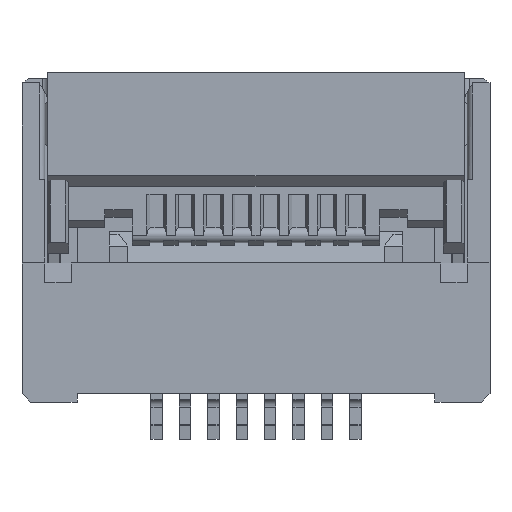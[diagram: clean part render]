
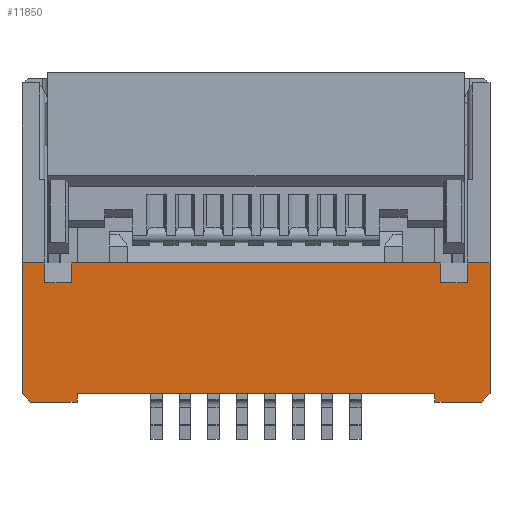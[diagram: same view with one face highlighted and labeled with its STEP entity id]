
A CAD part, top view. The second image highlights one B-rep face of the part: STEP entity #11850.
In plain terms, the highlighted planar face has unit normal (0, 0, 1).
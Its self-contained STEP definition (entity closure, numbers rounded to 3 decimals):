
#11806=AXIS2_PLACEMENT_3D('Plane Axis2P3D',#11803,#11804,#11805) ;
#638=CARTESIAN_POINT('Vertex',(1.86,2.3,1.97)) ;
#641=CARTESIAN_POINT('Line Origine',(1.86,1.15,1.97)) ;
#645=CARTESIAN_POINT('Vertex',(1.86,0.,1.97)) ;
#1993=CARTESIAN_POINT('Vertex',(0.99,1.95,1.97)) ;
#1996=CARTESIAN_POINT('Line Origine',(1.225,1.95,1.97)) ;
#2000=CARTESIAN_POINT('Vertex',(1.46,1.95,1.97)) ;
#2048=CARTESIAN_POINT('Line Origine',(1.46,2.125,1.97)) ;
#2052=CARTESIAN_POINT('Vertex',(1.46,2.3,1.97)) ;
#2106=CARTESIAN_POINT('Line Origine',(1.66,2.3,1.97)) ;
#2128=CARTESIAN_POINT('Line Origine',(1.785,-0.075,1.97)) ;
#2132=CARTESIAN_POINT('Vertex',(1.71,-0.15,1.97)) ;
#2152=CARTESIAN_POINT('Line Origine',(1.56,-0.15,1.97)) ;
#2156=CARTESIAN_POINT('Vertex',(1.41,-0.15,1.97)) ;
#2159=CARTESIAN_POINT('Line Origine',(1.15,-0.15,1.97)) ;
#2163=CARTESIAN_POINT('Vertex',(0.89,-0.15,1.97)) ;
#6178=CARTESIAN_POINT('Vertex',(-6.38,0.,1.97)) ;
#6183=CARTESIAN_POINT('Line Origine',(-6.38,1.15,1.97)) ;
#6187=CARTESIAN_POINT('Vertex',(-6.38,2.3,1.97)) ;
#7650=CARTESIAN_POINT('Vertex',(-5.98,2.3,1.97)) ;
#7653=CARTESIAN_POINT('Line Origine',(-6.18,2.3,1.97)) ;
#7674=CARTESIAN_POINT('Vertex',(-6.23,-0.15,1.97)) ;
#7677=CARTESIAN_POINT('Line Origine',(-6.305,-0.075,1.97)) ;
#7693=CARTESIAN_POINT('Vertex',(-5.41,-0.15,1.97)) ;
#7696=CARTESIAN_POINT('Line Origine',(-5.67,-0.15,1.97)) ;
#7700=CARTESIAN_POINT('Vertex',(-5.93,-0.15,1.97)) ;
#7703=CARTESIAN_POINT('Line Origine',(-6.08,-0.15,1.97)) ;
#7743=CARTESIAN_POINT('Line Origine',(-5.98,2.125,1.97)) ;
#7747=CARTESIAN_POINT('Vertex',(-5.98,1.95,1.97)) ;
#7796=CARTESIAN_POINT('Line Origine',(-5.745,1.95,1.97)) ;
#7800=CARTESIAN_POINT('Vertex',(-5.51,1.95,1.97)) ;
#10866=CARTESIAN_POINT('Vertex',(0.89,0.,1.97)) ;
#10869=CARTESIAN_POINT('Line Origine',(-2.26,0.,1.97)) ;
#10873=CARTESIAN_POINT('Vertex',(-5.41,0.,1.97)) ;
#11683=CARTESIAN_POINT('Line Origine',(-2.26,2.3,1.97)) ;
#11687=CARTESIAN_POINT('Vertex',(-5.51,2.3,1.97)) ;
#11689=CARTESIAN_POINT('Vertex',(0.99,2.3,1.97)) ;
#11803=CARTESIAN_POINT('Axis2P3D Location',(0.,2.3,1.97)) ;
#11808=CARTESIAN_POINT('Line Origine',(0.89,-0.075,1.97)) ;
#11813=CARTESIAN_POINT('Line Origine',(0.99,2.125,1.97)) ;
#11818=CARTESIAN_POINT('Line Origine',(-5.51,2.125,1.97)) ;
#11823=CARTESIAN_POINT('Line Origine',(-5.41,-0.075,1.97)) ;
#642=DIRECTION('Vector Direction',(0.,1.,0.)) ;
#1997=DIRECTION('Vector Direction',(-1.,0.,0.)) ;
#2049=DIRECTION('Vector Direction',(0.,-1.,0.)) ;
#2107=DIRECTION('Vector Direction',(1.,0.,0.)) ;
#2129=DIRECTION('Vector Direction',(0.707,0.707,0.)) ;
#2153=DIRECTION('Vector Direction',(1.,0.,0.)) ;
#2160=DIRECTION('Vector Direction',(1.,0.,0.)) ;
#6184=DIRECTION('Vector Direction',(0.,1.,0.)) ;
#7654=DIRECTION('Vector Direction',(1.,0.,0.)) ;
#7678=DIRECTION('Vector Direction',(-0.707,0.707,0.)) ;
#7697=DIRECTION('Vector Direction',(1.,0.,0.)) ;
#7704=DIRECTION('Vector Direction',(1.,0.,0.)) ;
#7744=DIRECTION('Vector Direction',(0.,-1.,0.)) ;
#7797=DIRECTION('Vector Direction',(-1.,0.,0.)) ;
#10870=DIRECTION('Vector Direction',(-1.,0.,0.)) ;
#11684=DIRECTION('Vector Direction',(1.,0.,0.)) ;
#11804=DIRECTION('Axis2P3D Direction',(-0.,0.,-1.)) ;
#11805=DIRECTION('Axis2P3D XDirection',(0.,-1.,0.)) ;
#11809=DIRECTION('Vector Direction',(0.,-1.,0.)) ;
#11814=DIRECTION('Vector Direction',(0.,-1.,0.)) ;
#11819=DIRECTION('Vector Direction',(0.,-1.,0.)) ;
#11824=DIRECTION('Vector Direction',(0.,-1.,0.)) ;
#643=VECTOR('Line Direction',#642,1.) ;
#1998=VECTOR('Line Direction',#1997,1.) ;
#2050=VECTOR('Line Direction',#2049,1.) ;
#2108=VECTOR('Line Direction',#2107,1.) ;
#2130=VECTOR('Line Direction',#2129,1.) ;
#2154=VECTOR('Line Direction',#2153,1.) ;
#2161=VECTOR('Line Direction',#2160,1.) ;
#6185=VECTOR('Line Direction',#6184,1.) ;
#7655=VECTOR('Line Direction',#7654,1.) ;
#7679=VECTOR('Line Direction',#7678,1.) ;
#7698=VECTOR('Line Direction',#7697,1.) ;
#7705=VECTOR('Line Direction',#7704,1.) ;
#7745=VECTOR('Line Direction',#7744,1.) ;
#7798=VECTOR('Line Direction',#7797,1.) ;
#10871=VECTOR('Line Direction',#10870,1.) ;
#11685=VECTOR('Line Direction',#11684,1.) ;
#11810=VECTOR('Line Direction',#11809,1.) ;
#11815=VECTOR('Line Direction',#11814,1.) ;
#11820=VECTOR('Line Direction',#11819,1.) ;
#11825=VECTOR('Line Direction',#11824,1.) ;
#11829=ORIENTED_EDGE('',*,*,#10875,.F.) ;
#11830=ORIENTED_EDGE('',*,*,#11812,.F.) ;
#11831=ORIENTED_EDGE('',*,*,#2165,.T.) ;
#11832=ORIENTED_EDGE('',*,*,#2158,.T.) ;
#11833=ORIENTED_EDGE('',*,*,#2134,.F.) ;
#11834=ORIENTED_EDGE('',*,*,#647,.F.) ;
#11835=ORIENTED_EDGE('',*,*,#2110,.F.) ;
#11836=ORIENTED_EDGE('',*,*,#2054,.F.) ;
#11837=ORIENTED_EDGE('',*,*,#2002,.T.) ;
#11838=ORIENTED_EDGE('',*,*,#11817,.T.) ;
#11839=ORIENTED_EDGE('',*,*,#11691,.F.) ;
#11840=ORIENTED_EDGE('',*,*,#11822,.F.) ;
#11841=ORIENTED_EDGE('',*,*,#7802,.F.) ;
#11842=ORIENTED_EDGE('',*,*,#7749,.T.) ;
#11843=ORIENTED_EDGE('',*,*,#7657,.T.) ;
#11844=ORIENTED_EDGE('',*,*,#6189,.T.) ;
#11845=ORIENTED_EDGE('',*,*,#7681,.T.) ;
#11846=ORIENTED_EDGE('',*,*,#7707,.F.) ;
#11847=ORIENTED_EDGE('',*,*,#7702,.F.) ;
#11848=ORIENTED_EDGE('',*,*,#11827,.T.) ;
#11850=ADVANCED_FACE('INSULATOR-(BJF 6288601-A)',(#11849),#11807,.F.) ;
#647=EDGE_CURVE('',#639,#646,#644,.F.) ;
#2002=EDGE_CURVE('',#2001,#1994,#1999,.T.) ;
#2054=EDGE_CURVE('',#2001,#2053,#2051,.F.) ;
#2110=EDGE_CURVE('',#2053,#639,#2109,.T.) ;
#2134=EDGE_CURVE('',#646,#2133,#2131,.F.) ;
#2158=EDGE_CURVE('',#2157,#2133,#2155,.T.) ;
#2165=EDGE_CURVE('',#2164,#2157,#2162,.T.) ;
#6189=EDGE_CURVE('',#6188,#6179,#6186,.F.) ;
#7657=EDGE_CURVE('',#7651,#6188,#7656,.F.) ;
#7681=EDGE_CURVE('',#6179,#7675,#7680,.F.) ;
#7702=EDGE_CURVE('',#7694,#7701,#7699,.F.) ;
#7707=EDGE_CURVE('',#7701,#7675,#7706,.F.) ;
#7749=EDGE_CURVE('',#7748,#7651,#7746,.F.) ;
#7802=EDGE_CURVE('',#7748,#7801,#7799,.F.) ;
#10875=EDGE_CURVE('',#10867,#10874,#10872,.T.) ;
#11691=EDGE_CURVE('',#11688,#11690,#11686,.T.) ;
#11812=EDGE_CURVE('',#2164,#10867,#11811,.F.) ;
#11817=EDGE_CURVE('',#1994,#11690,#11816,.F.) ;
#11822=EDGE_CURVE('',#7801,#11688,#11821,.F.) ;
#11827=EDGE_CURVE('',#7694,#10874,#11826,.F.) ;
#11828=EDGE_LOOP('',(#11829,#11830,#11831,#11832,#11833,#11834,#11835,#11836,#11837,#11838,#11839,#11840,#11841,#11842,#11843,#11844,#11845,#11846,#11847,#11848)) ;
#11849=FACE_OUTER_BOUND('',#11828,.T.) ;
#644=LINE('Line',#641,#643) ;
#1999=LINE('Line',#1996,#1998) ;
#2051=LINE('Line',#2048,#2050) ;
#2109=LINE('Line',#2106,#2108) ;
#2131=LINE('Line',#2128,#2130) ;
#2155=LINE('Line',#2152,#2154) ;
#2162=LINE('Line',#2159,#2161) ;
#6186=LINE('Line',#6183,#6185) ;
#7656=LINE('Line',#7653,#7655) ;
#7680=LINE('Line',#7677,#7679) ;
#7699=LINE('Line',#7696,#7698) ;
#7706=LINE('Line',#7703,#7705) ;
#7746=LINE('Line',#7743,#7745) ;
#7799=LINE('Line',#7796,#7798) ;
#10872=LINE('Line',#10869,#10871) ;
#11686=LINE('Line',#11683,#11685) ;
#11811=LINE('Line',#11808,#11810) ;
#11816=LINE('Line',#11813,#11815) ;
#11821=LINE('Line',#11818,#11820) ;
#11826=LINE('Line',#11823,#11825) ;
#11807=PLANE('Plane',#11806) ;
#639=VERTEX_POINT('',#638) ;
#646=VERTEX_POINT('',#645) ;
#1994=VERTEX_POINT('',#1993) ;
#2001=VERTEX_POINT('',#2000) ;
#2053=VERTEX_POINT('',#2052) ;
#2133=VERTEX_POINT('',#2132) ;
#2157=VERTEX_POINT('',#2156) ;
#2164=VERTEX_POINT('',#2163) ;
#6179=VERTEX_POINT('',#6178) ;
#6188=VERTEX_POINT('',#6187) ;
#7651=VERTEX_POINT('',#7650) ;
#7675=VERTEX_POINT('',#7674) ;
#7694=VERTEX_POINT('',#7693) ;
#7701=VERTEX_POINT('',#7700) ;
#7748=VERTEX_POINT('',#7747) ;
#7801=VERTEX_POINT('',#7800) ;
#10867=VERTEX_POINT('',#10866) ;
#10874=VERTEX_POINT('',#10873) ;
#11688=VERTEX_POINT('',#11687) ;
#11690=VERTEX_POINT('',#11689) ;
